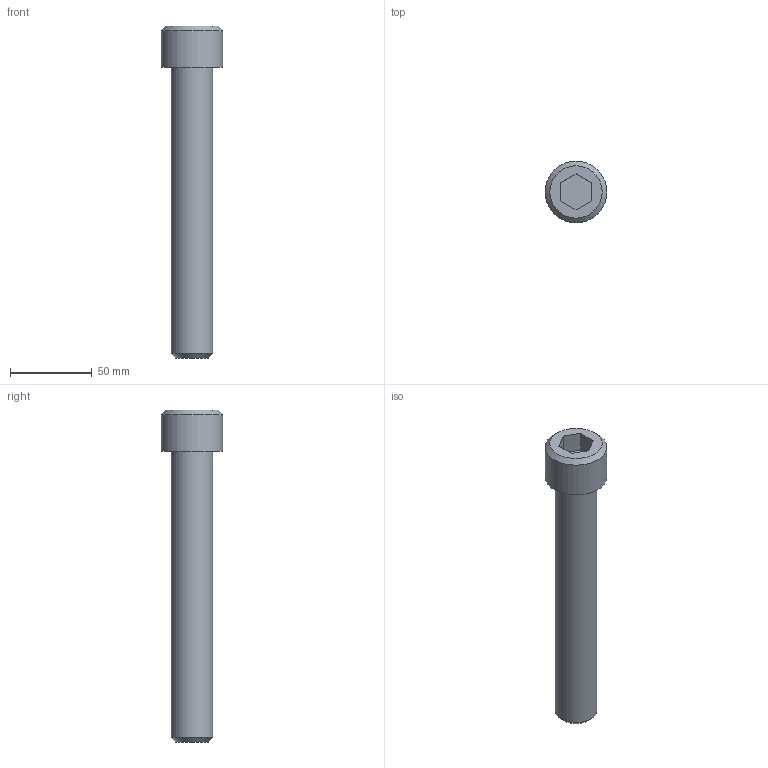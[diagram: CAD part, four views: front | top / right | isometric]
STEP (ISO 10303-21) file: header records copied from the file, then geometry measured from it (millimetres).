
FILE_DESCRIPTION((''),'2;1');
FILE_NAME('C:\Users\Stan\Desktop\import\SHCS 1-8 UNCx7.ipt.step','2011-08-18T17:44:24',(''),(''),'Autodesk Inventor 2012','Autodesk Inventor 2012','');
FILE_SCHEMA(('AUTOMOTIVE_DESIGN { 1 0 10303 214 1 1 1 1 }'));
Length unit declared in the file: inch
Products named in the file (1): SHCS 1-8 UNCx7
Bounding box: 37.8 x 37.8 x 203.05 mm (x, y, z)
Volume: 113685.5 mm3; surface area: 19900.6 mm2
Topology: 1 solids, 1 shells, 14 faces, 28 edges, 18 vertices
Faces by surface type: plane 10, cone 2, cylinder 2
Full cylindrical faces by diameter (mm): 25.4 x1, 37.795 x1
Entity records: 391 total; most frequent: DIRECTION 60, CARTESIAN_POINT 57, ORIENTED_EDGE 48, EDGE_CURVE 24, AXIS2_PLACEMENT_3D 21, EDGE_LOOP 20, VERTEX_POINT 18, VECTOR 18
